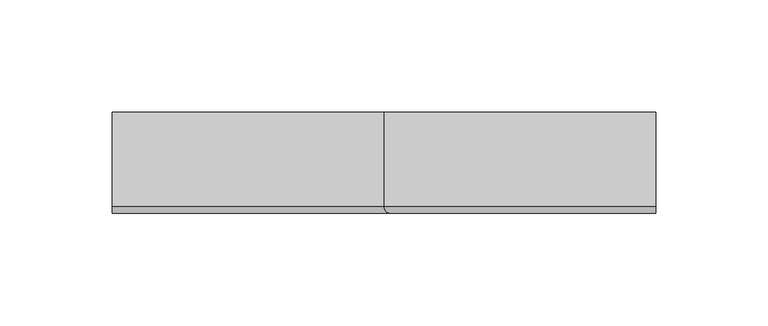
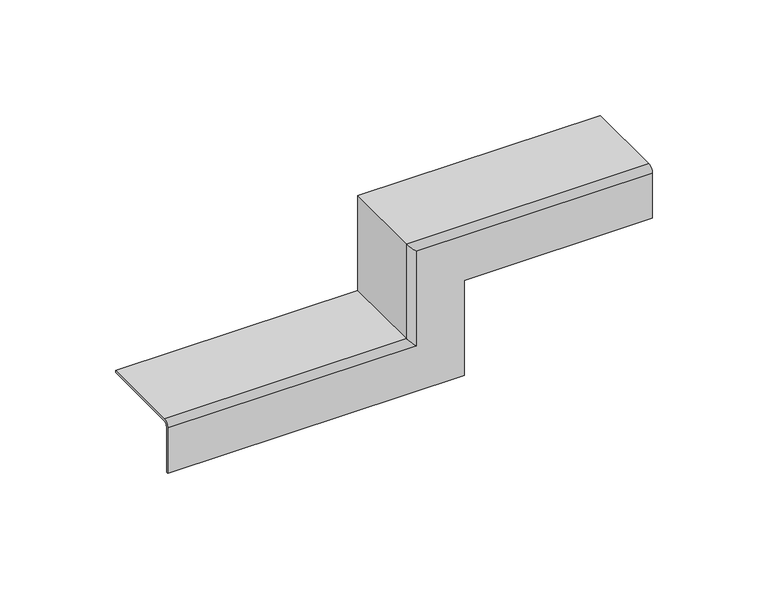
"""IFC4 building model written with IfcOpenShell, lengths in millimetres: cable carrier fitting geometry, КМ Профиль L Переходник для лестничного лотка LPDL : Переходник для лестничного лотка LPDL."""

import ifcopenshell
import ifcopenshell.guid

model = None  # the IFC model being written
_history = None  # IfcOwnerHistory: only IFC2X3 demands one
_inside = {}  # id of a spatial element -> (the spatial element, [elements in it])
_under = {}  # id of a project, library or spatial element -> (it, [spatial elements below it])
_declared = {}  # id of a project -> (the project, [libraries it declares])
_typed = {}  # id of a type object -> (the type object, [elements of that type])
_made_of = {}  # id of a material, layer set ... -> (it, [elements and type objects made of it])


def new_model(schema):
    """Start an empty IFC model of exactly this schema.

    Asked for "IFC4X3", IfcOpenShell would pick the latest addendum, in which some entities
    have other attributes; the version numbers below select the first issue.
    IFC2X3 requires an IfcOwnerHistory on every rooted entity: one is made here for all.
    """
    global model, _history
    if schema == "IFC4X3":
        model = ifcopenshell.file(schema_version=(4, 3, 0, 0))
    else:
        model = ifcopenshell.file(schema=schema)
    _inside.clear()
    _under.clear()
    _declared.clear()
    _typed.clear()
    _made_of.clear()
    _history = None
    if model.schema == "IFC2X3":
        org = make("IfcOrganization", Name="unknown")
        user = make(
            "IfcPersonAndOrganization",
            ThePerson=make("IfcPerson", FamilyName="unknown"),
            TheOrganization=org,
        )
        app = make(
            "IfcApplication",
            ApplicationDeveloper=org,
            Version="unknown",
            ApplicationFullName="unknown",
            ApplicationIdentifier="unknown",
        )
        _history = make(
            "IfcOwnerHistory",
            OwningUser=user,
            OwningApplication=app,
            ChangeAction="ADDED",
            CreationDate=0,
        )
    return model


def make(cls, **values):
    """One entity of the class cls with the attributes given. An attribute that is None is left unset."""
    return model.create_entity(
        cls, **{name: value for name, value in values.items() if value is not None}
    )


def rooted(cls, **values):
    """An entity with a GlobalId (a new one), such as an element, a storey or a relation."""
    return make(cls, GlobalId=ifcopenshell.guid.new(), OwnerHistory=_history, **values)


def si_unit(unit_type, name, prefix=None):
    """IfcSIUnit, for example si_unit("LENGTHUNIT", "METRE", prefix="MILLI")."""
    return make("IfcSIUnit", UnitType=unit_type, Prefix=prefix, Name=name)


def assignment(units):
    """IfcUnitAssignment: the units of a project."""
    return None if units is None else make("IfcUnitAssignment", Units=units)


def point(xyz):
    """IfcCartesianPoint."""
    return None if xyz is None else make("IfcCartesianPoint", Coordinates=xyz)


def direction(xyz):
    """IfcDirection."""
    return None if xyz is None else make("IfcDirection", DirectionRatios=xyz)


def frame(location, z_axis=None, x_axis=None):
    """IfcAxis2Placement3D, a coordinate frame: its origin and axes. An axis left out is left unset."""
    return make(
        "IfcAxis2Placement3D",
        Location=point(location),
        Axis=direction(z_axis),
        RefDirection=direction(x_axis),
    )


def origin():
    """The frame at (0, 0, 0) with its axes left unset."""
    return frame((0.0, 0.0, 0.0))


def place(relative_to, where):
    """IfcLocalPlacement: puts the frame where relative to a parent placement (None: the world)."""
    return make(
        "IfcLocalPlacement", PlacementRelTo=relative_to, RelativePlacement=where
    )


def context(
    kind, dimensions, precision=None, world=None, true_north=None, identifier=None
):
    """IfcGeometricRepresentationContext, for example the 3D "Model" context."""
    return make(
        "IfcGeometricRepresentationContext",
        ContextIdentifier=identifier,
        ContextType=kind,
        CoordinateSpaceDimension=dimensions,
        Precision=precision,
        WorldCoordinateSystem=world,
        TrueNorth=true_north,
    )


def project(units=None, contexts=None):
    """IfcProject with its units and contexts."""
    return rooted(
        "IfcProject",
        Name="project",
        RepresentationContexts=contexts,
        UnitsInContext=assignment(units),
    )


def spatial(cls, under=None, at=None, **own):
    """A site, building, storey or space (cls), placed at a placement, below another one or the project."""
    s = rooted(cls, ObjectPlacement=at, **own)
    if under is not None:
        _under.setdefault(under.id(), (under, []))[1].append(s)
    return s


def polyline(points):
    """IfcPolyline through the points."""
    return make("IfcPolyline", Points=[point(p) for p in points])


def circle_curve(where, radius):
    """IfcCircle in the frame where."""
    return make("IfcCircle", Position=where, Radius=radius)


def ellipse_curve(where, semi_axis1, semi_axis2):
    """IfcEllipse in the frame where."""
    return make(
        "IfcEllipse", Position=where, SemiAxis1=semi_axis1, SemiAxis2=semi_axis2
    )


def shape(context_of_items, identifier, shape_type, items):
    """IfcShapeRepresentation: the items that make up one representation, for example the "Body"."""
    return make(
        "IfcShapeRepresentation",
        ContextOfItems=context_of_items,
        RepresentationIdentifier=identifier,
        RepresentationType=shape_type,
        Items=items,
    )


def source(mapping_origin, context_of_items, identifier, shape_type, items):
    """IfcRepresentationMap: a shape defined once, which mapped items show again and again."""
    return make(
        "IfcRepresentationMap",
        MappingOrigin=mapping_origin,
        MappedRepresentation=shape(context_of_items, identifier, shape_type, items),
    )


def transform(
    local_origin,
    x_axis=None,
    y_axis=None,
    z_axis=None,
    scale=None,
    scale2=None,
    scale3=None,
    uniform=True,
):
    """IfcCartesianTransformationOperator3D, or its non-uniform kind. x_axis, y_axis, z_axis: its Axis1, 2, 3."""
    if uniform:
        return make(
            "IfcCartesianTransformationOperator3D",
            Axis1=direction(x_axis),
            Axis2=direction(y_axis),
            LocalOrigin=point(local_origin),
            Scale=scale,
            Axis3=direction(z_axis),
        )
    return make(
        "IfcCartesianTransformationOperator3DnonUniform",
        Axis1=direction(x_axis),
        Axis2=direction(y_axis),
        LocalOrigin=point(local_origin),
        Scale=scale,
        Axis3=direction(z_axis),
        Scale2=scale2,
        Scale3=scale3,
    )


def mapped(mapping_source, mapping_target):
    """IfcMappedItem: shows the shape of a source again, moved by a transform."""
    return make(
        "IfcMappedItem", MappingSource=mapping_source, MappingTarget=mapping_target
    )


def made_of(thing, what):
    """Note that an element or type object is made of a material, layer set ...; save() writes the relation."""
    if what is not None:
        _made_of.setdefault(what.id(), (what, []))[1].append(thing)
    return thing


def element(
    cls,
    number,
    at=None,
    inside=None,
    cuts=None,
    type_object=None,
    material=None,
    context=None,
    identifier="Body",
    shape_type=None,
    held_by="IfcProductDefinitionShape",
    body=None,
    shapes=None,
    **own,
):
    """One element of the class cls, such as IfcWall. Its Tag is "e" and its number.

    at: its placement. inside: the storey or other place that contains it. cuts: it is an
    opening in that element (IfcRelVoidsElement). A single representation is given by context,
    identifier, shape_type and body (its items); several are given by shapes. held_by: the class
    of the entity that holds the representations. save() writes the other relations.
    """
    e = rooted(cls, Tag="e%d" % number, ObjectPlacement=at, **own)
    if body is not None:
        shapes = [shape(context, identifier, shape_type, body)]
    if shapes is not None:
        e.Representation = make(held_by, Representations=shapes)
    if inside is not None:
        _inside.setdefault(inside.id(), (inside, []))[1].append(e)
    if cuts is not None:
        rooted(
            "IfcRelVoidsElement", RelatingBuildingElement=cuts, RelatedOpeningElement=e
        )
    if type_object is not None:
        _typed.setdefault(type_object.id(), (type_object, []))[1].append(e)
    return made_of(e, material)


def aggregate(whole, parts):
    """IfcRelAggregates: a whole, such as a stair, and the parts it consists of."""
    return rooted("IfcRelAggregates", RelatingObject=whole, RelatedObjects=parts)


def save(model, path):
    """Write the relations noted so far, then the file.

    IfcRelAggregates (storeys below a building ...), IfcRelContainedInSpatialStructure (elements
    in a storey), IfcRelDefinesByType, IfcRelAssociatesMaterial and IfcRelDeclares: one each for
    every whole, place, type object, material and project.
    """
    for whole, parts in _under.values():
        aggregate(whole, parts)
    for where, things in _inside.values():
        rooted(
            "IfcRelContainedInSpatialStructure",
            RelatedElements=things,
            RelatingStructure=where,
        )
    for kind, things in _typed.values():
        rooted("IfcRelDefinesByType", RelatedObjects=things, RelatingType=kind)
    for what, things in _made_of.values():
        rooted("IfcRelAssociatesMaterial", RelatedObjects=things, RelatingMaterial=what)
    for by, libraries in _declared.values():
        rooted("IfcRelDeclares", RelatingContext=by, RelatedDefinitions=libraries)
    model.write(path)


def plane_surface(at):
    """IfcPlane: the flat surface through the origin of the frame at, square to its z axis."""
    return make("IfcPlane", Position=at)


def cylinder_surface(at, radius):
    """IfcCylindricalSurface: all points at the distance radius from the z axis of the frame at."""
    return make("IfcCylindricalSurface", Position=at, Radius=radius)


def revolved_surface(curve, axis_point, axis_direction):
    """IfcSurfaceOfRevolution: the curve turned about the line through axis_point along axis_direction."""
    return make(
        "IfcSurfaceOfRevolution",
        SweptCurve=make("IfcArbitraryOpenProfileDef", ProfileType="CURVE", Curve=curve),
        AxisPosition=make("IfcAxis1Placement", Location=point(axis_point), Axis=direction(axis_direction)),
    )


def advanced_brep(points, edges, surfaces, faces):
    """IfcAdvancedBrep: a solid bounded by faces that lie on surfaces and meet in shared edges.

    An edge is (start, end): straight between two places in points (the first is 0);
    or (start, end, curve); or (start, end, curve, False) where it runs against its curve.
    A face is (place in surfaces, loops), or (place, loops, False) where it looks against
    its surface's normal. A loop lists edges by number (the first is 1), with a minus sign
    where the edge is run from its end to its start. The first loop is the outer one.
    """
    corners = [point(p) for p in points]
    vertices = [make("IfcVertexPoint", VertexGeometry=c) for c in corners]
    made = []
    for start, end, *more in edges:
        made.append(
            make(
                "IfcEdgeCurve",
                EdgeStart=vertices[start],
                EdgeEnd=vertices[end],
                EdgeGeometry=more[0] if more else make("IfcPolyline", Points=[corners[start], corners[end]]),
                SameSense=more[1] if len(more) > 1 else True,
            )
        )
    hull = []
    for where, loops, *sense in faces:
        bounds = []
        for j, loop in enumerate(loops):
            ring = [make("IfcOrientedEdge", EdgeElement=made[abs(k) - 1], Orientation=k > 0) for k in loop]
            bounds.append(
                make(
                    "IfcFaceOuterBound" if j == 0 else "IfcFaceBound",
                    Bound=make("IfcEdgeLoop", EdgeList=ring),
                    Orientation=True,
                )
            )
        hull.append(make("IfcAdvancedFace", Bounds=bounds, FaceSurface=surfaces[where], SameSense=sense[0] if sense else True))
    return make("IfcAdvancedBrep", Outer=make("IfcClosedShell", CfsFaces=hull))


def cable_carrier_fitting_6c7c0faa(model_context):
    return source(origin(), model_context, "Body", "AdvancedBrep", [
        advanced_brep(
        [(-121.0, 22.5, -50.0), (-121.0, 22.5, -51.0), (-121.0, -19.5, -51.0), (-121.0, -21.5, -53.0), (-121.0, -21.5, -77.0), (-121.0, -22.5, -77.0), (-121.0, -22.5, -53.0), (-121.0, -19.5, -50.0), (1.0, -19.5, -1.0), (1.0, 22.5, -1.0), (121.0, 22.5, -1.0), (121.0, -19.5, -1.0), (3.0, -21.5, -3.0), (121.0, -21.5, -3.0), (27.0, -22.5, -27.0), (27.0, -21.5, -27.0), (121.0, -21.5, -27.0), (121.0, -22.5, -27.0), (0.0, -19.5, 0.0), (3.0, -22.5, -3.0), (121.0, -22.5, -3.0), (121.0, -19.5, 0.0), (0.0, 22.5, 0.0), (121.0, 22.5, 0.0), (1.0, -19.5, -51.0), (1.0, 22.5, -51.0), (3.0, -21.5, -53.0), (27.0, -22.5, -77.0), (27.0, -21.5, -77.0), (0.0, -19.5, -50.0), (3.0, -22.5, -53.0), (0.0, 22.5, -50.0)],
        [
            (0, 1),
            (1, 2),
            (2, 3, circle_curve(frame((-121.0, -19.5, -53.0), z_axis=(1.0, 0.0, 0.0), x_axis=(0.0, 0.0, 1.0)), 2.0)),
            (3, 4),
            (4, 5),
            (5, 6),
            (6, 7, circle_curve(frame((-121.0, -19.5, -53.0), z_axis=(-1.0, 0.0, 0.0), x_axis=(0.0, 0.0, 1.0)), 3.0)),
            (7, 0),
            (8, 9),
            (9, 10),
            (10, 11),
            (11, 8),
            (12, 8, ellipse_curve(frame((3.0, -19.5, -3.0), z_axis=(-0.7071067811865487, 0.0, -0.7071067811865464), x_axis=(0.7071067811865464, 0.0, -0.7071067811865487)), 2.8284271, 2.0)),
            (11, 13, circle_curve(frame((121.0, -19.5, -3.0), z_axis=(1.0, 0.0, 0.0), x_axis=(0.0, 0.0, 1.0)), 2.0)),
            (13, 12),
            (14, 15),
            (15, 16),
            (16, 17),
            (17, 14),
            (18, 19, ellipse_curve(frame((3.0, -19.5, -3.0), z_axis=(0.7071067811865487, 0.0, 0.7071067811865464), x_axis=(-0.7071067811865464, 0.0, 0.7071067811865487)), 4.2426407, 3.0)),
            (19, 20),
            (20, 21, circle_curve(frame((121.0, -19.5, -3.0), z_axis=(-1.0, 0.0, 0.0), x_axis=(0.0, 0.0, 1.0)), 3.0)),
            (21, 18),
            (22, 18),
            (21, 23),
            (23, 22),
            (24, 25),
            (25, 9),
            (8, 24),
            (26, 24, ellipse_curve(frame((3.0, -19.5, -53.0), z_axis=(-0.7071067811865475, 0.0, -0.7071067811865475), x_axis=(-0.7071067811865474, 0.0, 0.7071067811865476)), 2.8284271, 2.0)),
            (12, 26),
            (27, 28),
            (28, 15),
            (14, 27),
            (29, 30, ellipse_curve(frame((3.0, -19.5, -53.0), z_axis=(0.7071067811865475, 0.0, 0.7071067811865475), x_axis=(0.7071067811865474, 0.0, -0.7071067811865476)), 4.2426407, 3.0)),
            (30, 19),
            (18, 29),
            (31, 29),
            (22, 31),
            (20, 17),
            (16, 13),
            (10, 23),
            (0, 31),
            (25, 1),
            (24, 2),
            (26, 3),
            (28, 4),
            (27, 5),
            (30, 6),
            (29, 7),
        ],
        [
            plane_surface(frame((-121.0, 0.0, -50.0), z_axis=(-1.0, 0.0, 0.0), x_axis=(0.0, -1.0, 0.0))),
            plane_surface(frame((1.0, 22.5, -1.0), z_axis=(0.0, 0.0, -1.0), x_axis=(1.0, 0.0, 0.0))),
            revolved_surface(polyline([(121.0, -19.5, -1.0), (1.0, -19.5, -1.0)]), (0.0, -19.5, -3.0), (1.0, 0.0, 0.0)),
            plane_surface(frame((27.0, -21.5, -27.0), z_axis=(0.0, 0.0, -1.0), x_axis=(1.0, 0.0, 0.0))),
            cylinder_surface(frame((0.0, -19.5, -3.0), z_axis=(-1.0, 0.0, 0.0), x_axis=(0.0, 0.0, 1.0)), 3.0),
            plane_surface(frame((0.0, -19.5, 0.0), z_axis=(0.0, 0.0, 1.0), x_axis=(1.0, 0.0, 0.0))),
            plane_surface(frame((1.0, 22.5, -51.0), z_axis=(1.0, 0.0, 0.0), x_axis=(0.0, 0.0, 1.0))),
            revolved_surface(polyline([(1.0, -19.5, -1.0), (1.0, -19.5, -54.999999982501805)]), (3.0, -19.5, -50.0), (0.0, 0.0, 1.0)),
            plane_surface(frame((27.0, -21.5, -77.0), z_axis=(1.0, 0.0, 0.0), x_axis=(0.0, 0.0, 1.0))),
            cylinder_surface(frame((3.0, -19.5, -50.0), z_axis=(0.0, 0.0, -1.0), x_axis=(-1.0, 0.0, 0.0)), 3.0),
            plane_surface(frame((0.0, -19.5, -50.0), z_axis=(-1.0, 0.0, 0.0), x_axis=(0.0, 0.0, 1.0))),
            plane_surface(frame((121.0, 0.0, 0.0), z_axis=(1.0, 0.0, 0.0), x_axis=(0.0, -1.0, 0.0))),
            plane_surface(frame((-121.0, 22.5, -50.0), z_axis=(0.0, 1.0, 0.0), x_axis=(1.0, 0.0, 0.0))),
            plane_surface(frame((-121.0, 22.5, -51.0), z_axis=(0.0, 0.0, -1.0), x_axis=(1.0, 0.0, 0.0))),
            revolved_surface(polyline([(4.999999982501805, -19.5, -51.0), (-121.0, -19.5, -51.0)]), (-121.0, -19.5, -53.0), (1.0, 0.0, 0.0)),
            plane_surface(frame((-121.0, -21.5, -53.0), z_axis=(0.0, 1.0, 0.0), x_axis=(1.0, 0.0, 0.0))),
            plane_surface(frame((-121.0, -21.5, -77.0), z_axis=(0.0, 0.0, -1.0), x_axis=(1.0, 0.0, 0.0))),
            plane_surface(frame((-121.0, -22.5, -77.0), z_axis=(0.0, -1.0, 0.0), x_axis=(1.0, 0.0, 0.0))),
            cylinder_surface(frame((-121.0, -19.5, -53.0), z_axis=(-1.0, 0.0, 0.0), x_axis=(0.0, 0.0, 1.0)), 3.0),
            plane_surface(frame((-121.0, -19.5, -50.0), z_axis=(0.0, 0.0, 1.0), x_axis=(1.0, 0.0, 0.0))),
        ],
        [
            (0, [[1, 2, 3, 4, 5, 6, 7, 8]]),
            (1, [[9, 10, 11, 12]]),
            (2, [[13, -12, 14, 15]]),
            (3, [[16, 17, 18, 19]]),
            (4, [[20, 21, 22, 23]]),
            (5, [[24, -23, 25, 26]]),
            (6, [[27, 28, -9, 29]]),
            (7, [[30, -29, -13, 31]]),
            (8, [[32, 33, -16, 34]]),
            (9, [[35, 36, -20, 37]]),
            (10, [[38, -37, -24, 39]]),
            (11, [[-25, -22, 40, -18, 41, -14, -11, 42]]),
            (12, [[-1, 43, -39, -26, -42, -10, -28, 44]]),
            (13, [[-2, -44, -27, 45]]),
            (14, [[-3, -45, -30, 46]]),
            (15, [[-4, -46, -31, -15, -41, -17, -33, 47]]),
            (16, [[-5, -47, -32, 48]]),
            (17, [[-6, -48, -34, -19, -40, -21, -36, 49]]),
            (18, [[-7, -49, -35, 50]]),
            (19, [[-8, -50, -38, -43]]),
        ],
    ),
    ])


if __name__ == "__main__":
    model = new_model("IFC4")
    model_context = context("Model", 3, world=origin())
    ifc_project = project(units=[si_unit("LENGTHUNIT", "METRE", prefix="MILLI")], contexts=[model_context])
    site = spatial("IfcSite", under=ifc_project)
    building = spatial("IfcBuilding", under=site)
    placement = place(None, origin())
    cable_carrier_fitting_shape = cable_carrier_fitting_6c7c0faa(model_context)
    element("IfcCableCarrierFitting", 1, ObjectType="КМ Профиль L Переходник для лестничного лотка LPDL : Переходник для лестничного лотка LPDL", at=placement, inside=building, context=model_context, shape_type="MappedRepresentation", body=[
        mapped(cable_carrier_fitting_shape, transform((0.0, 0.0, 0.0), x_axis=(1.0, 0.0, 0.0), y_axis=(0.0, 1.0, 0.0), z_axis=(0.0, 0.0, 1.0))),
    ])
    save(model, "model.ifc")
